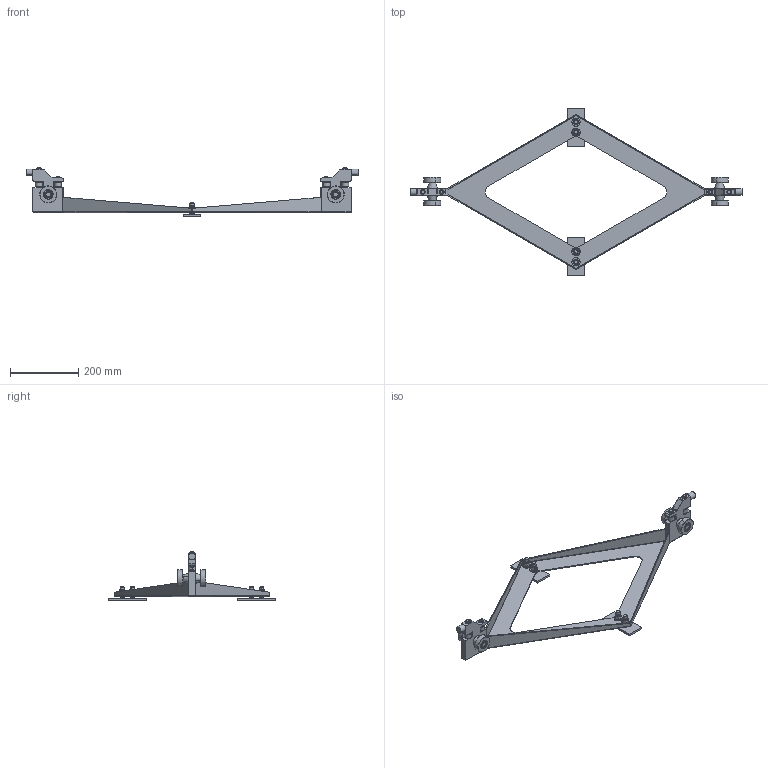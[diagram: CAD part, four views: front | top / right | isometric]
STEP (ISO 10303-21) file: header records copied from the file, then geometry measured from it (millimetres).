
FILE_DESCRIPTION (( 'STEP AP203' ), '1' );
FILE_NAME ('900.100.123.STEP', '2018-02-27T07:55:01', ( '' ), ( '' ), 'SwSTEP 2.0', 'SolidWorks 2016', '' );
FILE_SCHEMA (( 'CONFIG_CONTROL_DESIGN' ));
Length unit declared in the file: millimetre
Products named in the file (20): 900.100.042_Default<A macchina>; 900.100.043; 900.100.044; socket countersunk head screw_iso_ISO 10642 - M12 x 40 - 40N; circlip for shafts normal_din_Circlip DIN 471 - 15 x 1; RONDELLE UNI 6592 INOX_6.4x12.5 UNI 6592 INOX; 900.100.123; VITI TE UNI 5739_M6x40 UNI 5739; 900.100.045; VITI TE UNI 5739_M6x70 UNI 5739; GRANI A PUNTA CONICA UNI 5927_M6x12 UNI 5927; PUFFER FEMMINA_M6; 900.200.003-2; DADI ESAGONALI AUTOBLOCCANTI UNI 7473_M12 UNI 7473; 900.100.023; RONDELLE UNI 6592_13x24 UNI 6592; CUSCINETTI A SFERE_686-ZZ; spring lock washer 2_din_DIN 6905-11-FSt; CUSCINETTI A SFERE_6002-2Z
Assembly tree (64 placements, depth 3):
  900.100.123
    900.100.042_Default<A macchina>
    900.200.003-2  x4
    900.100.043  x2
    CUSCINETTI A SFERE_6002-2Z  x4
    900.100.045  x4
    900.100.044  x4
    900.100.023  x2
      900.100.023
      socket countersunk head screw_iso_ISO 10642 - M12 x 40 - 40N
    RONDELLE UNI 6592_13x24 UNI 6592  x4
    DADI ESAGONALI AUTOBLOCCANTI UNI 7473_M12 UNI 7473  x4
    CUSCINETTI A SFERE_686-ZZ  x8
    RONDELLE UNI 6592 INOX_6.4x12.5 UNI 6592 INOX  x8
    VITI TE UNI 5739_M6x70 UNI 5739  x2
    spring lock washer 2_din_DIN 6905-11-FSt  x4
    circlip for shafts normal_din_Circlip DIN 471 - 15 x 1  x4
    PUFFER FEMMINA_M6  x2
    GRANI A PUNTA CONICA UNI 5927_M6x12 UNI 5927  x2
    VITI TE UNI 5739_M6x40 UNI 5739  x2
Bounding box: 970 x 490 x 143.1 mm (x, y, z)
Volume: 977181.1 mm3; surface area: 478538.6 mm2
Topology: 70 solids, 70 shells, 1340 faces, 2978 edges, 1834 vertices
Faces by surface type: plane 479, cylinder 417, cone 316, torus 128
Entity records: 19568 total; most frequent: DIRECTION 2992, CARTESIAN_POINT 2966, ORIENTED_EDGE 2572, EDGE_CURVE 1286, AXIS2_PLACEMENT_3D 1140, VERTEX_POINT 810, VECTOR 712, LINE 712
